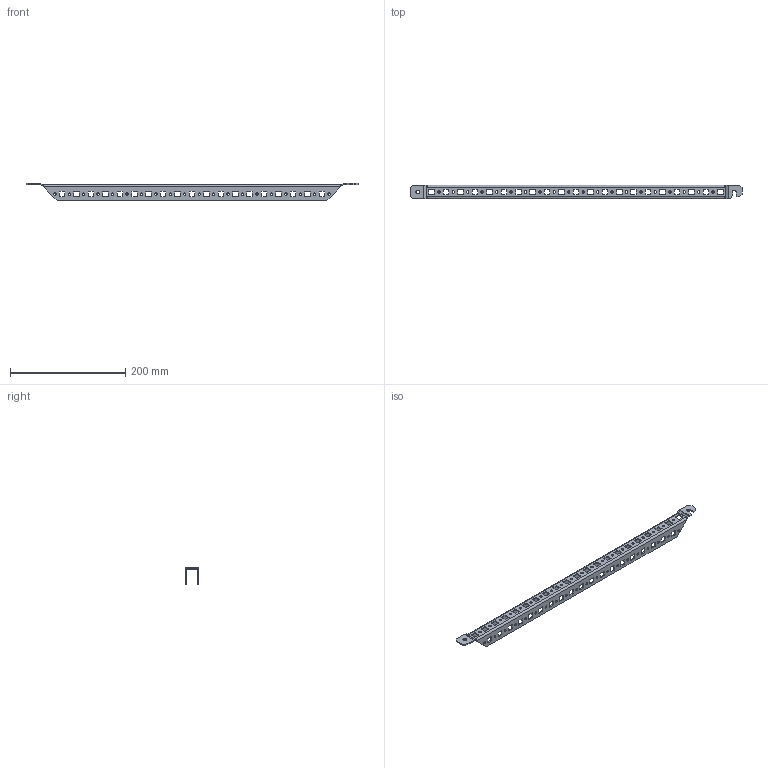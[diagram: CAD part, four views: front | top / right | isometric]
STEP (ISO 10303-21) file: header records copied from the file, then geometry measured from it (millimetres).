
FILE_DESCRIPTION (( 'STEP AP214' ), '1' );
FILE_NAME ('MG 60.03 Ðåéêà ìîíòàæíàÿ v2.STEP', '2018-06-20T09:54:32', ( '' ), ( '' ), 'SwSTEP 2.0', 'SolidWorks 2012', '' );
FILE_SCHEMA (( 'AUTOMOTIVE_DESIGN' ));
Length unit declared in the file: millimetre
Products named in the file (1): MG 60.03 Ðåéêà ìîíòàæíàÿ v2
Bounding box: 575 x 24 x 29.5 mm (x, y, z)
Volume: 62620.8 mm3; surface area: 71119.8 mm2
Topology: 1 solids, 1 shells, 672 faces, 1962 edges, 1292 vertices
Faces by surface type: cylinder 373, plane 299
Entity records: 22962 total; most frequent: DIRECTION 4054, CARTESIAN_POINT 3927, ORIENTED_EDGE 3924, EDGE_CURVE 1962, AXIS2_PLACEMENT_3D 1419, VERTEX_POINT 1292, VECTOR 1216, LINE 1216
